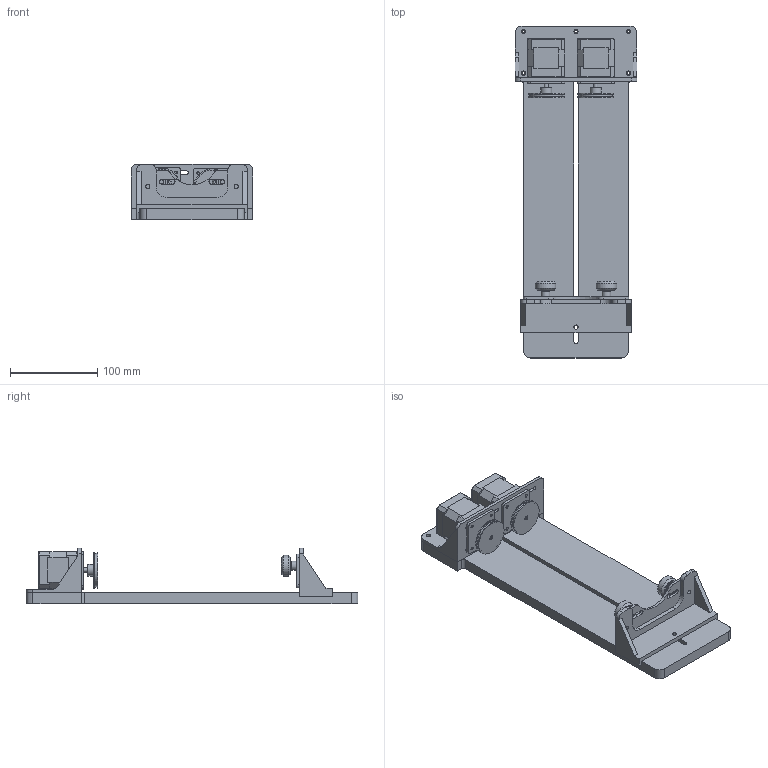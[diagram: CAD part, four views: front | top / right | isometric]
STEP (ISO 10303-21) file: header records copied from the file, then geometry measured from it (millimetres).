
FILE_DESCRIPTION(/* description */ (''),/* implementation_level */ '2;1');
FILE_NAME(/* name */ 'C:\Users\Woodchuck\Documents\Inventor\Projects\rotary jig\lra-full.stp',/* time_stamp */ '2019-01-12T09:31:57-05:00',/* author */ ('Woodchuck'),/* organization */ (''),/* preprocessor_version */ 'ST-DEVELOPER v17',/* originating_system */ 'Autodesk Inventor 2019',/* authorisation */ '');
FILE_SCHEMA (('AUTOMOTIVE_DESIGN { 1 0 10303 214 3 1 1 }'));
Length unit declared in the file: inch
Products named in the file (17): lra-full; lra7; lra4; lra10; Ball Bearing 5 x 16 x 5; Solid V Wheel; Aluminum Spacer 6mm; Precision Shim 10 x 5 x 1; Rotary-Passive Rolers; Nema 17; Nema 17 Base; Nema 17 Body; Nema 17 Top; Nema 17 Shaft; ISO 4762 - M2.5 x 6; Rotary-Active-Rolers; stepper support plate
Assembly tree (30 placements, depth 3):
  lra-full
    lra7
    lra4
    lra10  x2
    Solid V Wheel  x2
    Ball Bearing 5 x 16 x 5  x4
    Aluminum Spacer 6mm  x2
    Precision Shim 10 x 5 x 1  x4
    Rotary-Passive Rolers
    Nema 17  x2
      Nema 17 Base
      Nema 17 Body
      Nema 17 Top
      Nema 17 Shaft
      ISO 4762 - M2.5 x 6
    Rotary-Active-Rolers
    stepper support plate  x2
Bounding box: 139.7 x 381.01 x 63.5 mm (x, y, z)
Volume: 870152.6 mm3; surface area: 241726.3 mm2
Topology: 36 solids, 36 shells, 672 faces, 1840 edges, 1293 vertices
Faces by surface type: plane 343, cylinder 235, torus 56, cone 38
Full cylindrical faces by diameter (mm): 2 x2, 2.5 x8, 3 x16, 3.251 x5, 3.404 x8, 4.5 x8, 4.572 x2, 4.826 x3, 4.877 x5, 5 x14, 5.1 x2, 6 x2, 6.2 x8, 8.6 x8, 10 x6, 11 x4, 12.7 x2, 13.6 x8, 14 x2, 16 x8, 21 x2, 23.9 x2, 38 x2, 41 x4
Entity records: 12784 total; most frequent: DIRECTION 2247, CARTESIAN_POINT 2114, ORIENTED_EDGE 1994, EDGE_CURVE 997, AXIS2_PLACEMENT_3D 853, VERTEX_POINT 691, LINE 541, VECTOR 541
